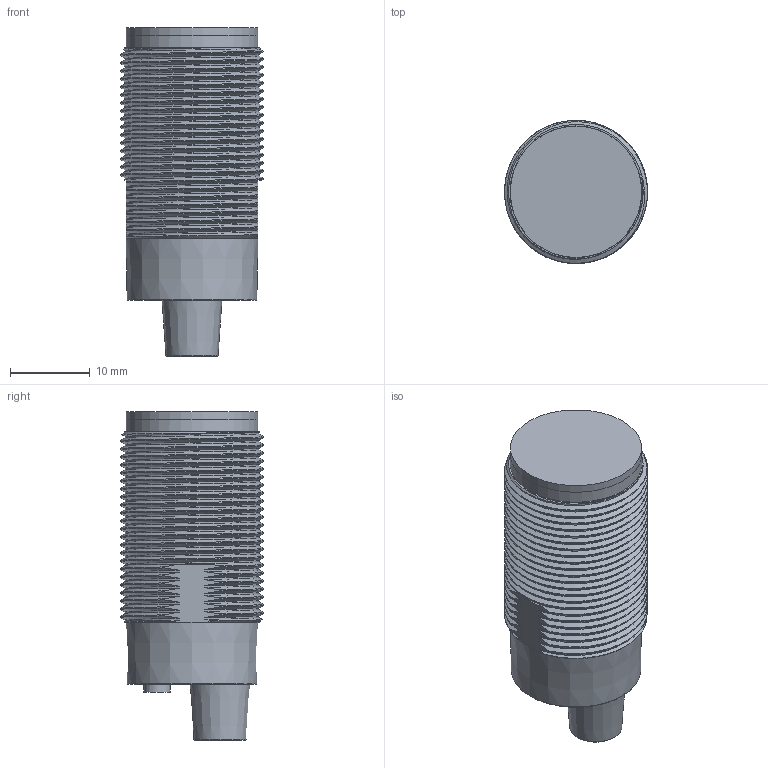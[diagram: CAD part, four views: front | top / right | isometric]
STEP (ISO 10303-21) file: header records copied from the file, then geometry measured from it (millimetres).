
FILE_DESCRIPTION(/* description */ ('','CAx-IF Rec.Pracs.---Representation and Presentation of Product Manufacturing Information (PMI)---4.0---2014-10-13'),/* implementation_level */ '2;1');
FILE_NAME(/* name */ 'SEN0158-3D-20241223.step',/* time_stamp */ '2024-12-23T13:46:09+08:00',/* author */ (''),/* organization */ (''),/* preprocessor_version */ 'ST-DEVELOPER v20',/* originating_system */ 'Autodesk Translation Framework v13.20.0.188',/* authorisation */ '');
FILE_SCHEMA (('AP242_MANAGED_MODEL_BASED_3D_ENGINEERING_MIM_LF { 1 0 10303 442 1 1 4 }'));
Products named in the file (1): SEN0158
Bounding box: 17.9 x 17.9 x 41.1 mm (x, y, z)
Volume: 8020.7 mm3; surface area: 3183.9 mm2
Topology: 1 solids, 1 shells, 116 faces, 327 edges, 216 vertices
Faces by surface type: cylinder 65, bspline 30, plane 11, cone 7, torus 3
Full cylindrical faces by diameter (mm): 3.303 x1, 16.448 x1, 16.8 x16, 17.9 x15
Entity records: 54278 total; most frequent: CARTESIAN_POINT 51688, ORIENTED_EDGE 654, DIRECTION 335, EDGE_CURVE 327, VERTEX_POINT 216, B_SPLINE_CURVE_WITH_KNOTS 195, EDGE_LOOP 119, AXIS2_PLACEMENT_3D 117
